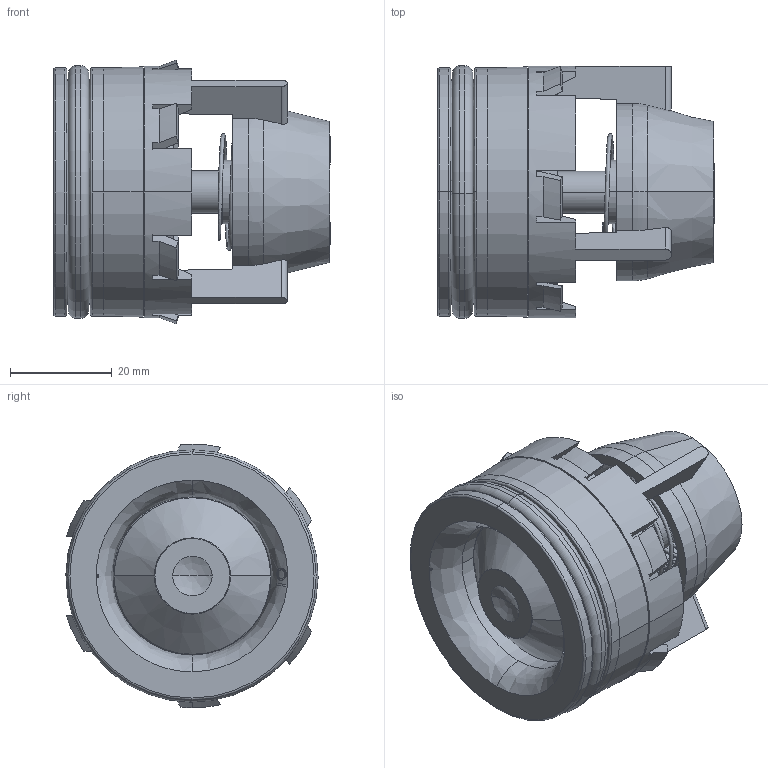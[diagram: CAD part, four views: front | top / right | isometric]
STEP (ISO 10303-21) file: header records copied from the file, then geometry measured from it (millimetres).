
FILE_DESCRIPTION (( 'STEP AP203' ), '1' );
FILE_NAME ('I0050-W149050620.STEP', '2020-04-08T14:39:21', ( '' ), ( '' ), 'SwSTEP 2.0', 'SolidWorks 2017', '' );
FILE_SCHEMA (( 'CONFIG_CONTROL_DESIGN' ));
Length unit declared in the file: metre
Products named in the file (7): PRT_FRVIR_0000008082; I0050-W149050620; PRT_FRVIR_0000008069; Pièce33^ASM_FRVIR_0000002705; FUR_FRVIR_0000000996; PRT_FRVIR_0000008051; PRT_FRVIR_0000007865
Assembly tree (6 placements, depth 2):
  I0050-W149050620
    PRT_FRVIR_0000008069
    FUR_FRVIR_0000000996
    PRT_FRVIR_0000007865
    PRT_FRVIR_0000008051
    PRT_FRVIR_0000008082
    Pièce33^ASM_FRVIR_0000002705
Bounding box: 54.45 x 49.6 x 51.84 mm (x, y, z)
Volume: 34032.4 mm3; surface area: 31796.1 mm2
Topology: 6 solids, 6 shells, 507 faces, 1280 edges, 778 vertices
Faces by surface type: bspline 186, plane 151, cylinder 84, cone 71, torus 15
Entity records: 26093 total; most frequent: CARTESIAN_POINT 14647, ORIENTED_EDGE 2504, DIRECTION 1892, EDGE_CURVE 1252, VERTEX_POINT 778, AXIS2_PLACEMENT_3D 737, EDGE_LOOP 542, ADVANCED_FACE 507
